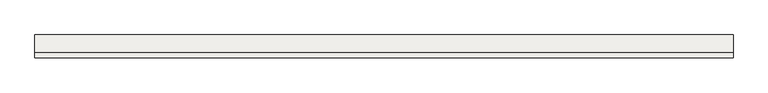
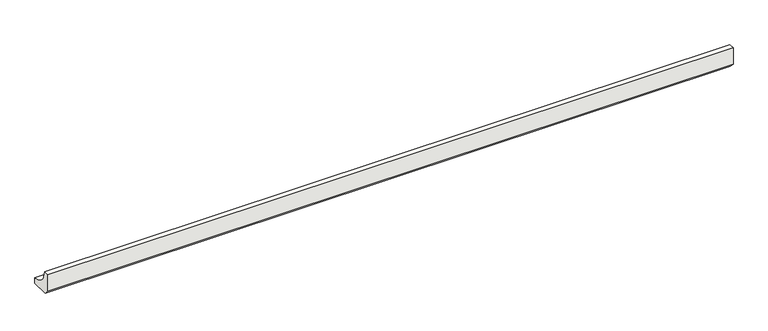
"""IFC4 building model written with IfcOpenShell, lengths in millimetres: slab geometry, ROSA GRES_188 : Pieza 188_Serena_Ocra_Anti-Slip."""

from ifc_helpers import new_model, si_unit, point, frame, frame_2d, origin, place, context, project, spatial, polyline, circle_curve, trimmed, segment, composite_curve, outline, extrude, source, transform, mapped, element, save


def slab_165595c9(model_context):
    return source(origin(), model_context, "Body", "SweptSolid", [
        extrude(outline(composite_curve([segment(polyline([(0.0, 8.7114978), (0.0, 40.0), (9.9734114, 40.0)]), True, "CONTINUOUS"), segment(trimmed(circle_curve(frame_2d((39.9955547, 39.9955547)), 30.0221435), [point((9.9734114, 40.0))], [point((40.0, 9.9734114))], True, "CARTESIAN"), True, "CONTINUOUS"), segment(polyline([(40.0, 9.9734114), (40.0, 0.0), (8.7114978, 0.0), (0.0, 8.7114978)]), True, "CONTINUOUS")], self_intersect=False)), frame((0.0, 0.0, 0.0), z_axis=(1.0, 0.0, 0.0), x_axis=(0.0, 1.0, 0.0)), (0.0, 0.0, 1.0), 1217.3011723),
    ])


if __name__ == "__main__":
    model = new_model("IFC4")
    model_context = context("Model", 3, world=origin())
    ifc_project = project(units=[si_unit("LENGTHUNIT", "METRE", prefix="MILLI")], contexts=[model_context])
    site = spatial("IfcSite", under=ifc_project)
    building = spatial("IfcBuilding", under=site)
    placement = place(None, origin())
    slab_shape = slab_165595c9(model_context)
    element("IfcSlab", 1, ObjectType="ROSA GRES_188 : Pieza 188_Serena_Ocra_Anti-Slip", at=placement, inside=building, context=model_context, shape_type="MappedRepresentation", body=[
        mapped(slab_shape, transform((0.0, 0.0, 0.0), x_axis=(1.0, 0.0, 0.0), y_axis=(0.0, 1.0, 0.0), z_axis=(0.0, 0.0, 1.0))),
    ])
    save(model, "model.ifc")
